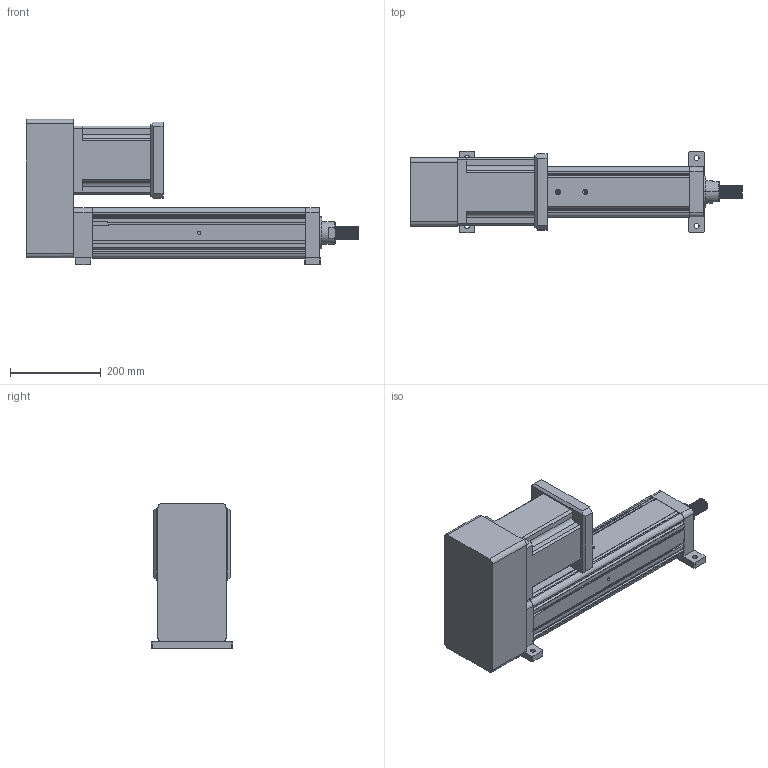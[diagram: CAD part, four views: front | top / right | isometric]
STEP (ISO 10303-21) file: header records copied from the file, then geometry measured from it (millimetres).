
FILE_DESCRIPTION (( 'STEP AP203' ), '1' );
FILE_NAME ('YRJ110-L300-H2K1.STEP', '2020-01-04T06:09:29', ( 'User' ), ( 'China' ), 'SwSTEP 2.0', 'SolidWorks 2016', '' );
FILE_SCHEMA (( 'CONFIG_CONTROL_DESIGN' ));
Length unit declared in the file: millimetre
Products named in the file (7): K1-110; 095-100俴最倰第; 萇儂碟-110; 142熬厒儂; H2-110-1; YRJ110-L300-H2K1; H2-110-2
Assembly tree (6 placements, depth 2):
  YRJ110-L300-H2K1
    095-100俴最倰第
    萇儂碟-110
    142熬厒儂
    H2-110-1
    H2-110-2
    K1-110
Bounding box: 731 x 180 x 320 mm (x, y, z)
Volume: 11937839.3 mm3; surface area: 922230.9 mm2
Topology: 6 solids, 6 shells, 373 faces, 1033 edges, 668 vertices
Faces by surface type: plane 186, cylinder 156, cone 27, bspline 4
Entity records: 20550 total; most frequent: CARTESIAN_POINT 10416, ORIENTED_EDGE 2034, DIRECTION 1879, EDGE_CURVE 1017, VERTEX_POINT 668, LINE 657, VECTOR 657, AXIS2_PLACEMENT_3D 611
